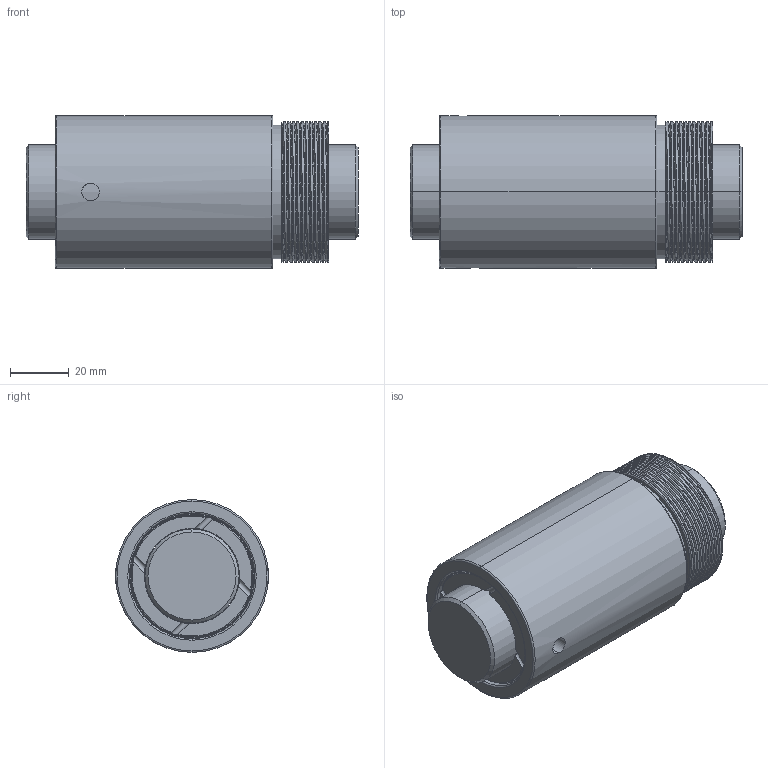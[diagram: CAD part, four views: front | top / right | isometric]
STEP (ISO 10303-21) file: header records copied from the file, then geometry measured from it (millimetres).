
FILE_DESCRIPTION (( 'STEP AP203' ), '1' );
FILE_NAME ('BSHR03210T4-C.STEP', '2020-06-17T07:05:54', ( '' ), ( '' ), 'SwSTEP 2.0', 'SolidWorks 2013', '' );
FILE_SCHEMA (( 'CONFIG_CONTROL_DESIGN' ));
Length unit declared in the file: millimetre
Products named in the file (1): BSHR03210T4-C
Bounding box: 113 x 52 x 52 mm (x, y, z)
Volume: 182502.9 mm3; surface area: 46688.4 mm2
Topology: 2 solids, 2 shells, 123 faces, 309 edges, 195 vertices
Faces by surface type: cylinder 65, torus 26, plane 23, cone 6, bspline 3
Entity records: 6271 total; most frequent: CARTESIAN_POINT 3407, ORIENTED_EDGE 616, DIRECTION 563, EDGE_CURVE 308, AXIS2_PLACEMENT_3D 240, VERTEX_POINT 195, EDGE_LOOP 135, ADVANCED_FACE 123
